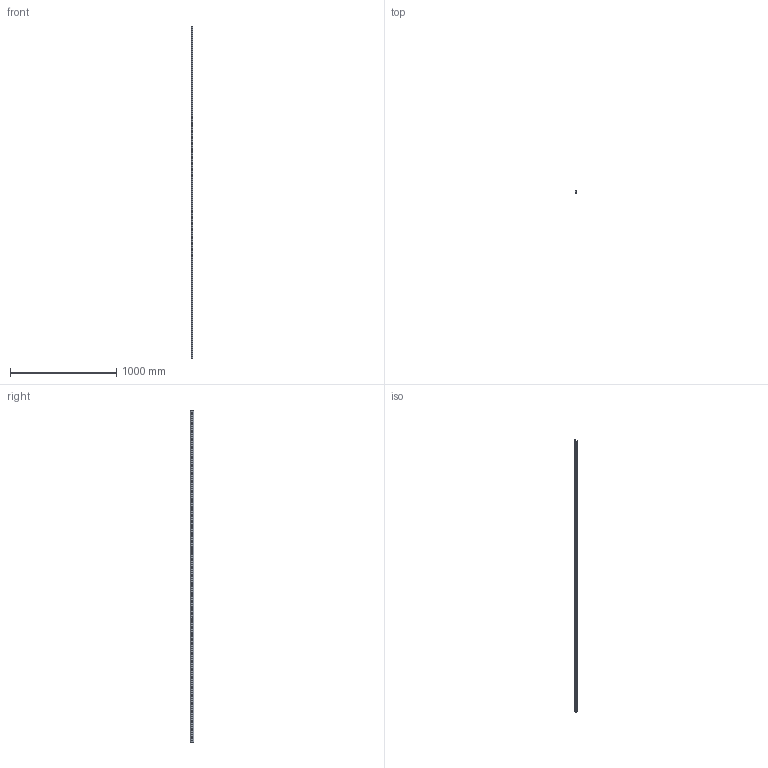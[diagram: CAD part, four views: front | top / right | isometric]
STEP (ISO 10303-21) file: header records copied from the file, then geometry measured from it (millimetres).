
FILE_DESCRIPTION (( 'STEP AP203' ), '1' );
FILE_NAME ('L1971.30U-3120.step', '2026-01-14T13:30:11', ( '' ), ( '' ), 'SwSTEP 2.0', 'SolidWorks 2019', '' );
FILE_SCHEMA (( 'CONFIG_CONTROL_DESIGN' ));
Length unit declared in the file: millimetre
Products named in the file (1): L1971.30U-3120
Bounding box: 16 x 31.8 x 3120 mm (x, y, z)
Volume: 633728.6 mm3; surface area: 346736.9 mm2
Topology: 1 solids, 1 shells, 209 faces, 621 edges, 414 vertices
Faces by surface type: cylinder 121, plane 88
Entity records: 7330 total; most frequent: DIRECTION 1283, CARTESIAN_POINT 1245, ORIENTED_EDGE 1242, EDGE_CURVE 621, AXIS2_PLACEMENT_3D 452, VERTEX_POINT 414, LINE 379, VECTOR 379
